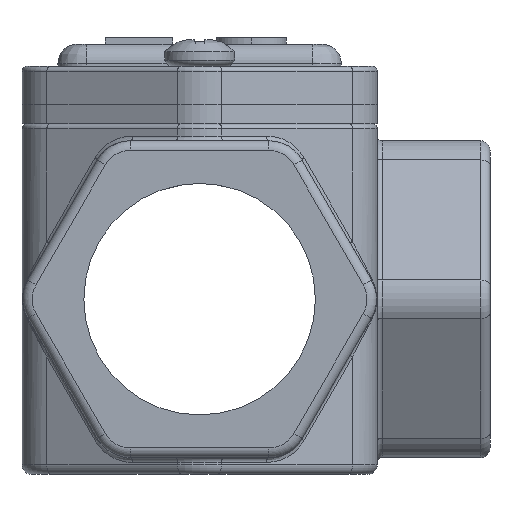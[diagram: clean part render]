
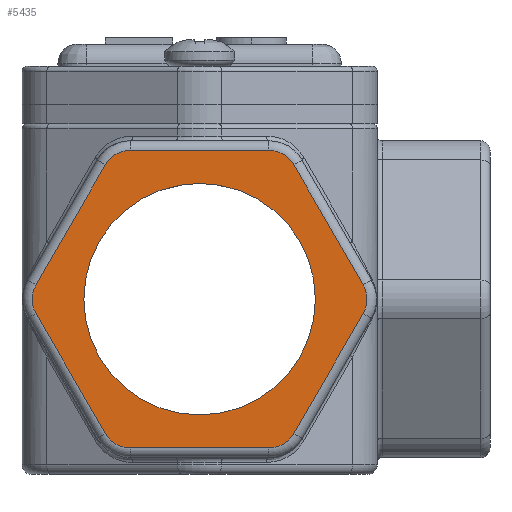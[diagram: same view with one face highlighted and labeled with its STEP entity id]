
A CAD part, left-side view. The second image highlights one B-rep face of the part: STEP entity #5435.
In plain terms, the highlighted planar face has unit normal (-1, 0, 0).
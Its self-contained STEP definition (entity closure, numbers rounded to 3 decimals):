
#5026=CARTESIAN_POINT('',(-59.25,17.032,16.75));
#5027=VERTEX_POINT('',#5026);
#5045=CARTESIAN_POINT('',(-59.25,9.815,4.25));
#5046=VERTEX_POINT('',#5045);
#5054=CARTESIAN_POINT('',(-59.25,9.815,4.25));
#5055=DIRECTION('',(0.0,0.5,0.866));
#5056=VECTOR('',#5055,14.434);
#5057=LINE('',#5054,#5056);
#5058=EDGE_CURVE('',#5046,#5027,#5057,.T.);
#5068=CARTESIAN_POINT('',(-59.25,7.217,2.75));
#5069=VERTEX_POINT('',#5068);
#5077=CARTESIAN_POINT('',(-59.25,7.217,5.75));
#5078=DIRECTION('',(1.0,0.,0.));
#5079=DIRECTION('',(0.,0.5,-0.866));
#5080=AXIS2_PLACEMENT_3D('',#5077,#5078,#5079);
#5081=CIRCLE('',#5080,3.);
#5082=EDGE_CURVE('',#5069,#5046,#5081,.T.);
#5100=CARTESIAN_POINT('',(-59.25,-7.217,2.75));
#5101=VERTEX_POINT('',#5100);
#5109=CARTESIAN_POINT('',(-59.25,-7.217,2.75));
#5110=DIRECTION('',(0.0,1.0,0.0));
#5111=VECTOR('',#5110,14.434);
#5112=LINE('',#5109,#5111);
#5113=EDGE_CURVE('',#5101,#5069,#5112,.T.);
#5125=CARTESIAN_POINT('',(-59.25,-9.815,4.25));
#5126=VERTEX_POINT('',#5125);
#5134=CARTESIAN_POINT('',(-59.25,-7.217,5.75));
#5135=DIRECTION('',(1.0,0.,0.));
#5136=DIRECTION('',(0.,-0.5,-0.866));
#5137=AXIS2_PLACEMENT_3D('',#5134,#5135,#5136);
#5138=CIRCLE('',#5137,3.);
#5139=EDGE_CURVE('',#5126,#5101,#5138,.T.);
#5151=CARTESIAN_POINT('',(-59.25,-17.032,16.75));
#5152=VERTEX_POINT('',#5151);
#5160=CARTESIAN_POINT('',(-59.25,-17.032,16.75));
#5161=DIRECTION('',(0.0,0.5,-0.866));
#5162=VECTOR('',#5161,14.434);
#5163=LINE('',#5160,#5162);
#5164=EDGE_CURVE('',#5152,#5126,#5163,.T.);
#5176=CARTESIAN_POINT('',(-59.25,-17.032,19.75));
#5177=VERTEX_POINT('',#5176);
#5185=CARTESIAN_POINT('',(-59.25,-14.434,18.25));
#5186=DIRECTION('',(1.0,0.0,0.0));
#5187=DIRECTION('',(0.0,-1.0,0.0));
#5188=AXIS2_PLACEMENT_3D('',#5185,#5186,#5187);
#5189=CIRCLE('',#5188,3.);
#5190=EDGE_CURVE('',#5177,#5152,#5189,.T.);
#5202=CARTESIAN_POINT('',(-59.25,-9.815,32.25));
#5203=VERTEX_POINT('',#5202);
#5211=CARTESIAN_POINT('',(-59.25,-9.815,32.25));
#5212=DIRECTION('',(0.0,-0.5,-0.866));
#5213=VECTOR('',#5212,14.434);
#5214=LINE('',#5211,#5213);
#5215=EDGE_CURVE('',#5203,#5177,#5214,.T.);
#5227=CARTESIAN_POINT('',(-59.25,-7.217,33.75));
#5228=VERTEX_POINT('',#5227);
#5236=CARTESIAN_POINT('',(-59.25,-7.217,30.75));
#5237=DIRECTION('',(1.0,0.,0.));
#5238=DIRECTION('',(0.,-0.5,0.866));
#5239=AXIS2_PLACEMENT_3D('',#5236,#5237,#5238);
#5240=CIRCLE('',#5239,3.);
#5241=EDGE_CURVE('',#5228,#5203,#5240,.T.);
#5255=CARTESIAN_POINT('',(-59.25,7.217,33.75));
#5256=VERTEX_POINT('',#5255);
#5264=CARTESIAN_POINT('',(-59.25,7.217,33.75));
#5265=DIRECTION('',(0.0,-1.0,0.0));
#5266=VECTOR('',#5265,14.434);
#5267=LINE('',#5264,#5266);
#5268=EDGE_CURVE('',#5256,#5228,#5267,.T.);
#5287=CARTESIAN_POINT('',(-59.25,9.815,32.25));
#5288=VERTEX_POINT('',#5287);
#5296=CARTESIAN_POINT('',(-59.25,7.217,30.75));
#5297=DIRECTION('',(1.0,0.,0.));
#5298=DIRECTION('',(0.,0.5,0.866));
#5299=AXIS2_PLACEMENT_3D('',#5296,#5297,#5298);
#5300=CIRCLE('',#5299,3.);
#5301=EDGE_CURVE('',#5288,#5256,#5300,.T.);
#5321=CARTESIAN_POINT('',(-59.25,17.032,19.75));
#5322=VERTEX_POINT('',#5321);
#5330=CARTESIAN_POINT('',(-59.25,17.032,19.75));
#5331=DIRECTION('',(0.0,-0.5,0.866));
#5332=VECTOR('',#5331,14.434);
#5333=LINE('',#5330,#5332);
#5334=EDGE_CURVE('',#5322,#5288,#5333,.T.);
#5352=CARTESIAN_POINT('',(-59.25,14.434,18.25));
#5353=DIRECTION('',(1.0,0.0,0.0));
#5354=DIRECTION('',(0.0,1.0,0.0));
#5355=AXIS2_PLACEMENT_3D('',#5352,#5353,#5354);
#5356=CIRCLE('',#5355,3.);
#5357=EDGE_CURVE('',#5027,#5322,#5356,.T.);
#5405=CARTESIAN_POINT('',(-59.25,0.,18.25));
#5406=DIRECTION('',(1.0,0.0,0.0));
#5407=DIRECTION('',(0.0,0.0,-1.0));
#5408=AXIS2_PLACEMENT_3D('',#5405,#5406,#5407);
#5409=PLANE('',#5408);
#5410=ORIENTED_EDGE('',*,*,#5058,.F.);
#5411=ORIENTED_EDGE('',*,*,#5082,.F.);
#5412=ORIENTED_EDGE('',*,*,#5113,.F.);
#5413=ORIENTED_EDGE('',*,*,#5139,.F.);
#5414=ORIENTED_EDGE('',*,*,#5164,.F.);
#5415=ORIENTED_EDGE('',*,*,#5190,.F.);
#5416=ORIENTED_EDGE('',*,*,#5215,.F.);
#5417=ORIENTED_EDGE('',*,*,#5241,.F.);
#5418=ORIENTED_EDGE('',*,*,#5268,.F.);
#5419=ORIENTED_EDGE('',*,*,#5301,.F.);
#5420=ORIENTED_EDGE('',*,*,#5334,.F.);
#5421=ORIENTED_EDGE('',*,*,#5357,.F.);
#5422=EDGE_LOOP('',(#5410,#5411,#5412,#5413,#5414,#5415,#5416,#5417,#5418,#5419,#5420,#5421));
#5423=FACE_OUTER_BOUND('',#5422,.T.);
#5424=CARTESIAN_POINT('',(-59.25,0.,30.309));
#5425=VERTEX_POINT('',#5424);
#5426=CARTESIAN_POINT('',(-59.25,0.,18.25));
#5427=DIRECTION('',(1.0,0.0,0.0));
#5428=DIRECTION('',(0.0,0.0,1.0));
#5429=AXIS2_PLACEMENT_3D('',#5426,#5427,#5428);
#5430=CIRCLE('',#5429,12.059);
#5431=EDGE_CURVE('',#5425,#5425,#5430,.T.);
#5432=ORIENTED_EDGE('',*,*,#5431,.T.);
#5433=EDGE_LOOP('',(#5432));
#5434=FACE_BOUND('',#5433,.T.);
#5435=ADVANCED_FACE('',(#5423,#5434),#5409,.F.);
